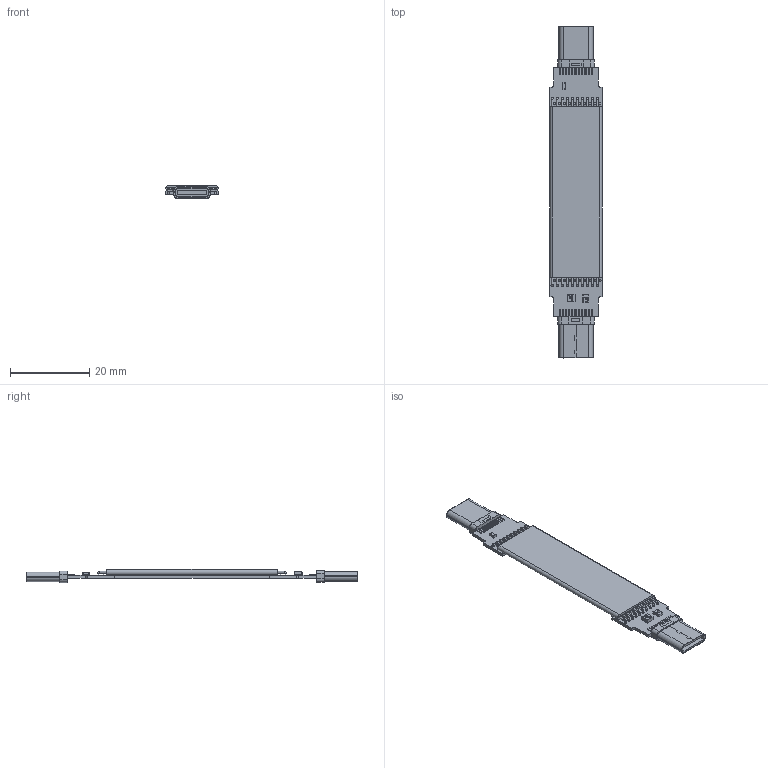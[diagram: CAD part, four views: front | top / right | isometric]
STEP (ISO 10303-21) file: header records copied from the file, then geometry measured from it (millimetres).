
FILE_DESCRIPTION(('Open CASCADE Model'),'2;1');
FILE_NAME('Open CASCADE Shape Model','2022-04-24T00:07:11',('Author'),( 'Open CASCADE'),'Open CASCADE STEP processor 6.8','Open CASCADE 6.8' ,'Unknown');
FILE_SCHEMA(('AUTOMOTIVE_DESIGN { 1 0 10303 214 1 1 1 1 }'));
Length unit declared in the file: millimetre
Products named in the file (57): PCB; Board; Open CASCADE STEP translator 6.8 4.1.1; Open CASCADE STEP translator 6.8 4.2; type_C_T1; Open CASCADE STEP translator 6.8 4.3; C0603_060; Designator59; User_Library-DFN8-2x2; 1; _1; Free-Models; cable20-A1A1
Assembly tree (64 placements, depth 3):
  PCB
    Board
      Open CASCADE STEP translator 6.8 4.1.1
    Open CASCADE STEP translator 6.8 4.2
      type_C_T1
    Open CASCADE STEP translator 6.8 4.3
      C0603_060
      C0603_060
      C0603_060
    Designator59
      User_Library-DFN8-2x2  x2
      User_Library-DFN8-2x2
    1
      C0603_060
      C0603_060
      C0603_060
    _1
      type_C_T1
    _1
      C0603_060
      C0603_060
      C0603_060
    Free-Models
      cable20-A1A1
      cable20-A1A1
      cable20-A1A1
      cable20-A1A1
      cable20-A1A1
      cable20-A1A1
      cable20-A1A1
      cable20-A1A1
      cable20-A1A1
      cable20-A1A1
      cable20-A1A1
      cable20-A1A1
      cable20-A1A1
      cable20-A1A1
      cable20-A1A1
      cable20-A1A1
      cable20-A1A1
      cable20-A1A1
      cable20-A1A1
      cable20-A1A1
      cable20-A1A1
      cable20-A1A1
      cable20-A1A1
      cable20-A1A1
      cable20-A1A1
      cable20-A1A1
      cable20-A1A1
      cable20-A1A1
      cable20-A1A1
      cable20-A1A1
      cable20-A1A1
      cable20-A1A1
      cable20-A1A1
      cable20-A1A1
      cable20-A1A1
      cable20-A1A1
      cable20-A1A1
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Bounding box: 13.28 x 83.93 x 3.3 mm (x, y, z)
Volume: 1211.2 mm3; surface area: 4278.5 mm2
Topology: 53 solids, 56 shells, 1480 faces, 3653 edges, 2330 vertices
Faces by surface type: plane 1053, cylinder 312, torus 40, bspline 30, sphere 24, revolution 21
Full cylindrical faces by diameter (mm): 0.3 x3, 0.4 x100, 0.55 x20, 0.58 x20
Entity records: 38231 total; most frequent: CARTESIAN_POINT 7532, DIRECTION 4479, ORIENTED_EDGE 4448, EDGE_CURVE 2225, LINE 1571, VECTOR 1571, AXIS2_PLACEMENT_3D 1447, VERTEX_POINT 1432
